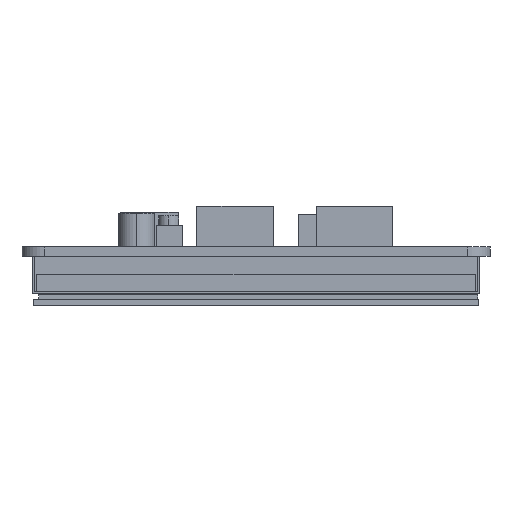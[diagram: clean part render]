
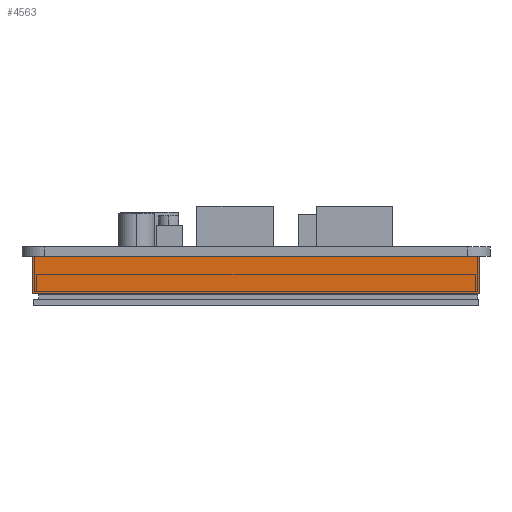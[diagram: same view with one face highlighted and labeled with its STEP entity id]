
A CAD part, front view. The second image highlights one B-rep face of the part: STEP entity #4563.
In plain terms, the highlighted planar face has unit normal (0, -1, 0).
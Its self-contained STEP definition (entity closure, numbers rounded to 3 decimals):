
#511=DIRECTION('',(1.,0.,0.));
#512=VECTOR('',#511,8.034);
#513=CARTESIAN_POINT('',(30.671,-60.901,-1.6));
#514=LINE('',#513,#512);
#527=DIRECTION('',(1.,0.,0.));
#528=VECTOR('',#527,50.927);
#529=CARTESIAN_POINT('',(-25.337,-60.901,-1.6));
#530=LINE('',#529,#528);
#543=DIRECTION('',(1.,0.,0.));
#544=VECTOR('',#543,8.279);
#545=CARTESIAN_POINT('',(-38.696,-60.901,-1.6));
#546=LINE('',#545,#544);
#895=DIRECTION('',(1.,0.,0.));
#896=VECTOR('',#895,5.08);
#897=CARTESIAN_POINT('',(25.591,-60.901,-1.6));
#898=LINE('',#897,#896);
#959=DIRECTION('',(1.,0.,0.));
#960=VECTOR('',#959,5.08);
#961=CARTESIAN_POINT('',(-30.417,-60.901,-1.6));
#962=LINE('',#961,#960);
#1107=DIRECTION('',(0.,0.,1.));
#1108=VECTOR('',#1107,6.5);
#1109=CARTESIAN_POINT('',(-38.696,-60.901,-8.1));
#1110=LINE('',#1109,#1108);
#1111=DIRECTION('',(0.,0.,1.));
#1112=VECTOR('',#1111,6.5);
#1113=CARTESIAN_POINT('',(38.705,-60.901,-8.1));
#1114=LINE('',#1113,#1112);
#1123=DIRECTION('',(1.,0.,0.));
#1124=VECTOR('',#1123,77.4);
#1125=CARTESIAN_POINT('',(-38.696,-60.901,-8.1));
#1126=LINE('',#1125,#1124);
#2721=CARTESIAN_POINT('',(-38.696,-60.901,-8.1));
#2722=VERTEX_POINT('',#2721);
#2723=CARTESIAN_POINT('',(38.705,-60.901,-8.1));
#2724=VERTEX_POINT('',#2723);
#2764=CARTESIAN_POINT('',(-38.696,-60.901,-1.6));
#2766=VERTEX_POINT('',#2764);
#2767=CARTESIAN_POINT('',(-30.417,-60.901,-1.6));
#2768=VERTEX_POINT('',#2767);
#2769=CARTESIAN_POINT('',(-25.337,-60.901,-1.6));
#2770=CARTESIAN_POINT('',(25.591,-60.901,-1.6));
#2771=VERTEX_POINT('',#2769);
#2772=VERTEX_POINT('',#2770);
#2773=CARTESIAN_POINT('',(30.671,-60.901,-1.6));
#2774=CARTESIAN_POINT('',(38.705,-60.901,-1.6));
#2775=VERTEX_POINT('',#2773);
#2776=VERTEX_POINT('',#2774);
#4546=CARTESIAN_POINT('',(-38.696,-60.901,-8.1));
#4547=DIRECTION('',(0.,-1.,0.));
#4548=DIRECTION('',(1.,0.,0.));
#4549=AXIS2_PLACEMENT_3D('',#4546,#4547,#4548);
#4550=PLANE('',#4549);
#4551=ORIENTED_EDGE('',*,*,#3413,.T.);
#4552=ORIENTED_EDGE('',*,*,#4058,.T.);
#4553=ORIENTED_EDGE('',*,*,#3405,.T.);
#4554=ORIENTED_EDGE('',*,*,#3876,.T.);
#4555=ORIENTED_EDGE('',*,*,#3397,.T.);
#4557=ORIENTED_EDGE('',*,*,#4556,.F.);
#4559=ORIENTED_EDGE('',*,*,#4558,.F.);
#4560=ORIENTED_EDGE('',*,*,#4531,.T.);
#4561=EDGE_LOOP('',(#4551,#4552,#4553,#4554,#4555,#4557,#4559,#4560));
#4562=FACE_OUTER_BOUND('',#4561,.F.);
#3397=EDGE_CURVE('',#2775,#2776,#514,.T.);
#3405=EDGE_CURVE('',#2771,#2772,#530,.T.);
#3413=EDGE_CURVE('',#2766,#2768,#546,.T.);
#3876=EDGE_CURVE('',#2772,#2775,#898,.T.);
#4058=EDGE_CURVE('',#2768,#2771,#962,.T.);
#4531=EDGE_CURVE('',#2722,#2766,#1110,.T.);
#4556=EDGE_CURVE('',#2724,#2776,#1114,.T.);
#4558=EDGE_CURVE('',#2722,#2724,#1126,.T.);
#4563=ADVANCED_FACE('',(#4562),#4550,.T.);
